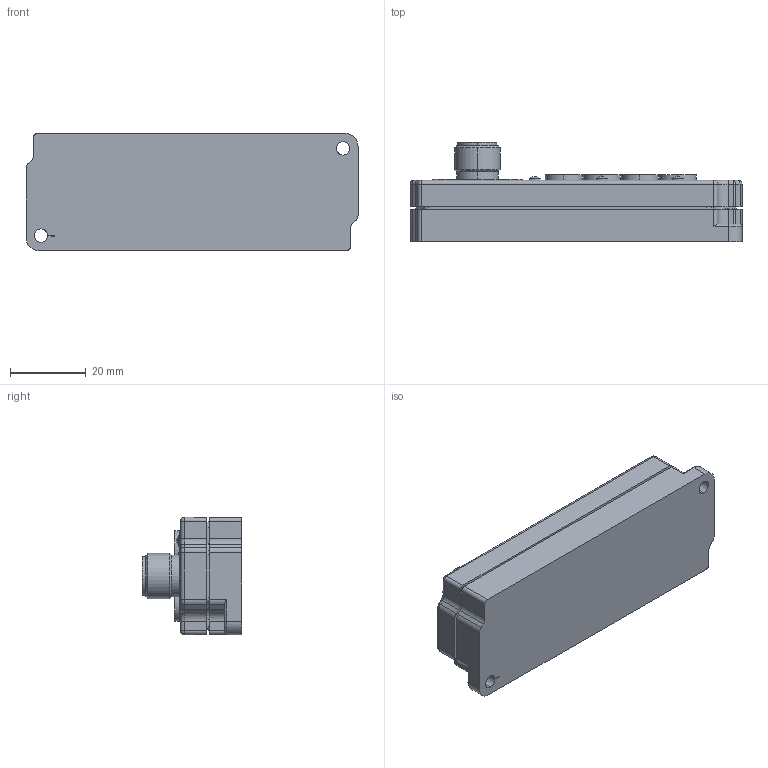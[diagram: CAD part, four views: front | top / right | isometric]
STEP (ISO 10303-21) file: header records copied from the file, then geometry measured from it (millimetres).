
FILE_DESCRIPTION (( 'STEP AP214' ), '1' );
FILE_NAME ('AJB4M8-3N-M12.STEP', '2019-12-16T02:19:49', ( '微软用户' ), ( '微软中国' ), 'SwSTEP 2.0', 'SolidWorks 2016', '' );
FILE_SCHEMA (( 'AUTOMOTIVE_DESIGN' ));
Length unit declared in the file: millimetre
Products named in the file (1): AJB4M8-3N-M12
Bounding box: 87.6 x 26.3 x 31 mm (x, y, z)
Volume: 42834.2 mm3; surface area: 14633 mm2
Topology: 25 solids, 41 shells, 543 faces, 1384 edges, 960 vertices
Faces by surface type: cylinder 263, plane 218, bspline 28, sphere 18, torus 8, cone 8
Entity records: 30568 total; most frequent: CARTESIAN_POINT 18362, ORIENTED_EDGE 2708, DIRECTION 1908, EDGE_CURVE 1354, VERTEX_POINT 944, AXIS2_PLACEMENT_3D 674, B_SPLINE_CURVE_WITH_KNOTS 636, EDGE_LOOP 620
